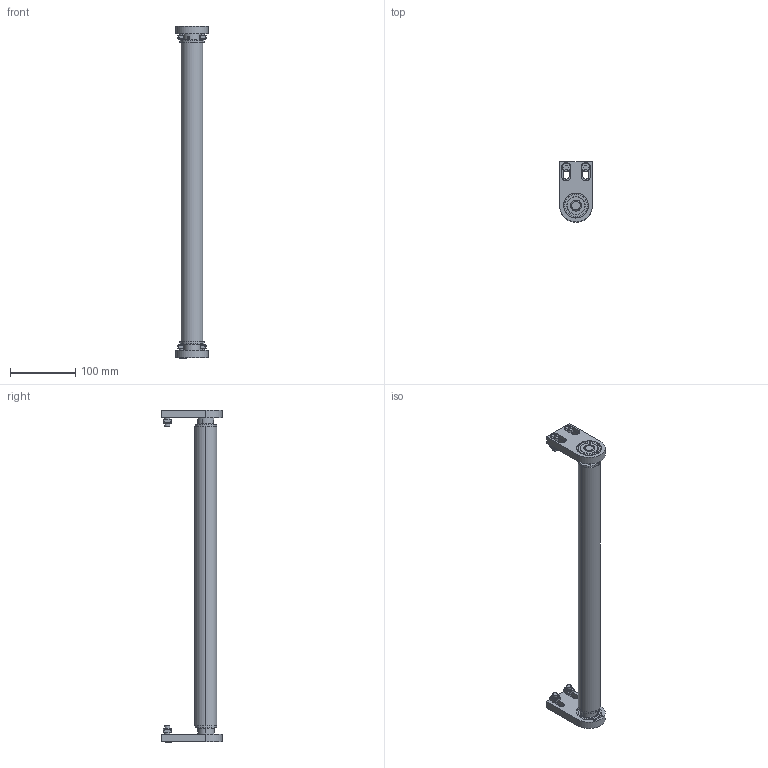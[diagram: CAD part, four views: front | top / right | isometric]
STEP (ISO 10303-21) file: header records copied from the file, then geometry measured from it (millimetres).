
FILE_DESCRIPTION (( 'STEP AP203' ), '1' );
FILE_NAME ('084.095.KSS.450.STEP', '2019-07-12T10:01:31', ( 'Localadmin' ), ( 'Microsoft' ), 'SwSTEP 2.0', 'SolidWorks 2018', '' );
FILE_SCHEMA (( 'CONFIG_CONTROL_DESIGN' ));
Length unit declared in the file: millimetre
Products named in the file (8): 084.802.013-2; 084.095.KSS.450; 084.802.014; 084.302.000 DADI ALUSIC 13x13-1_084.302.004; 084.802.017_084.802.017; 084.802.028; 084.301.000 VITI ALUSIC_084.301.003; 084.802.029-459
Assembly tree (17 placements, depth 2):
  084.095.KSS.450
    084.802.029-459
    084.301.000 VITI ALUSIC_084.301.003  x4
    084.302.000 DADI ALUSIC 13x13-1_084.302.004  x4
    084.802.017_084.802.017  x2
    084.802.028  x2
    084.802.014  x2
    084.802.013-2  x2
Bounding box: 50 x 92.5 x 509 mm (x, y, z)
Volume: 253052 mm3; surface area: 165107 mm2
Topology: 19 solids, 21 shells, 384 faces, 910 edges, 582 vertices
Faces by surface type: plane 142, cylinder 134, torus 52, cone 32, bspline 16, sphere 8
Entity records: 5980 total; most frequent: CARTESIAN_POINT 1263, DIRECTION 820, ORIENTED_EDGE 700, EDGE_CURVE 350, AXIS2_PLACEMENT_3D 339, VERTEX_POINT 224, EDGE_LOOP 182, CIRCLE 170
